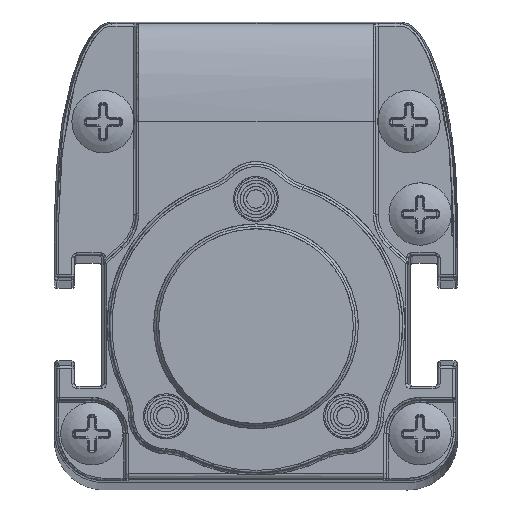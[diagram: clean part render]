
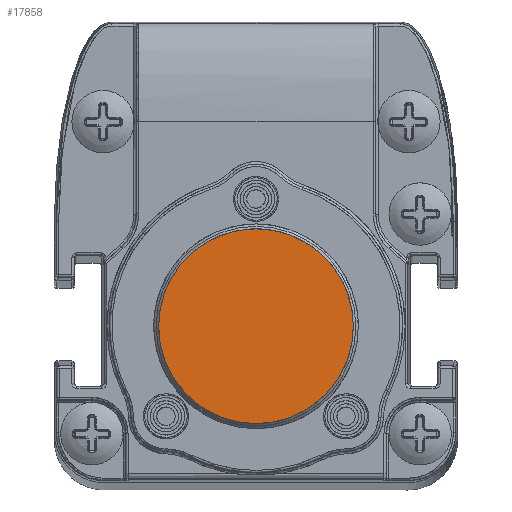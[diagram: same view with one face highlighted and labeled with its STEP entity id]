
A CAD part, top view. The second image highlights one B-rep face of the part: STEP entity #17858.
In plain terms, the highlighted planar face has unit normal (0, 0, 1).
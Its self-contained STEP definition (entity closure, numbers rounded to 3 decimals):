
#15125=B_SPLINE_CURVE_WITH_KNOTS('',3,(#62742,#62743,#62744,#62745,#62746,
#62747,#62748,#62749,#62750,#62751,#62752,#62753,#62754,#62755,#62756,#62757,
#62758,#62759,#62760,#62761,#62762,#62763,#62764,#62765,#62766,#62767,#62768,
#62769,#62770,#62771,#62772,#62773,#62774,#62775,#62776,#62777,#62778,#62779,
#62780,#62781,#62782,#62783,#62784,#62785,#62786,#62787,#62788,#62789,#62790,
#62791,#62792,#62793,#62794,#62795,#62796,#62797,#62798,#62799,#62800,#62801,
#62802,#62803,#62804,#62805,#62806,#62807,#62808,#62809,#62810,#62811,#62812,
#62813,#62814,#62815,#62816,#62817,#62818,#62819,#62820,#62821,#62822,#62823,
#62824,#62825,#62826,#62827,#62828,#62829,#62830,#62831,#62832,#62833,#62834,
#62835,#62836,#62837,#62838,#62839,#62840,#62841,#62842,#62843,#62844),
 .UNSPECIFIED.,.T.,.F.,(1,3,3,3,3,3,3,3,3,3,3,3,3,3,3,3,3,3,3,3,3,3,3,3,
3,3,3,3,3,3,3,3,3,3,3,3,1),(-0.029,0.,0.029,0.059,
0.088,0.118,0.147,0.176,
0.206,0.235,0.265,0.294,
0.324,0.353,0.382,0.412,
0.441,0.471,0.5,0.529,0.559,
0.588,0.618,0.647,0.676,
0.706,0.735,0.765,0.794,
0.824,0.853,0.882,0.912,
0.941,0.971,1.,1.029),.UNSPECIFIED.);
#17858=ADVANCED_FACE('',(#19841),#18756,.T.);
#18756=PLANE('',#43002);
#19841=FACE_OUTER_BOUND('',#21305,.T.);
#21305=EDGE_LOOP('',(#27536));
#27536=ORIENTED_EDGE('',*,*,#36415,.T.);
#31536=VERTEX_POINT('',#62845);
#36415=EDGE_CURVE('',#31536,#31536,#15125,.T.);
#43002=AXIS2_PLACEMENT_3D('',#62846,#46929,#46930);
#46929=DIRECTION('',(0.,0.,1.));
#46930=DIRECTION('',(1.,0.,0.));
#62742=CARTESIAN_POINT('',(7.8,0.,383.24));
#62743=CARTESIAN_POINT('',(7.8,0.465,383.24));
#62744=CARTESIAN_POINT('',(7.759,0.925,383.24));
#62745=CARTESIAN_POINT('',(7.679,1.376,383.24));
#62746=CARTESIAN_POINT('',(7.638,1.601,383.24));
#62747=CARTESIAN_POINT('',(7.588,1.825,383.24));
#62748=CARTESIAN_POINT('',(7.527,2.047,383.24));
#62749=CARTESIAN_POINT('',(7.466,2.269,383.24));
#62750=CARTESIAN_POINT('',(7.407,2.458,383.24));
#62751=CARTESIAN_POINT('',(7.315,2.708,383.24));
#62752=CARTESIAN_POINT('',(7.129,3.209,383.24));
#62753=CARTESIAN_POINT('',(6.898,3.683,383.24));
#62754=CARTESIAN_POINT('',(6.62,4.128,383.24));
#62755=CARTESIAN_POINT('',(6.343,4.573,383.24));
#62756=CARTESIAN_POINT('',(6.043,4.965,383.24));
#62757=CARTESIAN_POINT('',(5.651,5.376,383.24));
#62758=CARTESIAN_POINT('',(4.868,6.2,383.24));
#62759=CARTESIAN_POINT('',(3.912,6.837,383.24));
#62760=CARTESIAN_POINT('',(2.89,7.245,383.24));
#62761=CARTESIAN_POINT('',(2.378,7.449,383.24));
#62762=CARTESIAN_POINT('',(1.856,7.597,383.24));
#62763=CARTESIAN_POINT('',(1.324,7.689,383.24));
#62764=CARTESIAN_POINT('',(1.058,7.734,383.24));
#62765=CARTESIAN_POINT('',(0.79,7.766,383.24));
#62766=CARTESIAN_POINT('',(0.52,7.784,383.24));
#62767=CARTESIAN_POINT('',(0.249,7.801,383.24));
#62768=CARTESIAN_POINT('',(-0.055,7.804,383.24));
#62769=CARTESIAN_POINT('',(-0.3,7.794,383.24));
#62770=CARTESIAN_POINT('',(-0.79,7.775,383.24));
#62771=CARTESIAN_POINT('',(-1.271,7.712,383.24));
#62772=CARTESIAN_POINT('',(-1.742,7.604,383.24));
#62773=CARTESIAN_POINT('',(-2.213,7.496,383.24));
#62774=CARTESIAN_POINT('',(-2.713,7.327,383.24));
#62775=CARTESIAN_POINT('',(-3.123,7.147,383.24));
#62776=CARTESIAN_POINT('',(-3.534,6.968,383.24));
#62777=CARTESIAN_POINT('',(-3.924,6.757,383.24));
#62778=CARTESIAN_POINT('',(-4.293,6.513,383.24));
#62779=CARTESIAN_POINT('',(-4.477,6.392,383.24));
#62780=CARTESIAN_POINT('',(-4.656,6.262,383.24));
#62781=CARTESIAN_POINT('',(-4.83,6.125,383.24));
#62782=CARTESIAN_POINT('',(-5.004,5.987,383.24));
#62783=CARTESIAN_POINT('',(-5.15,5.864,383.24));
#62784=CARTESIAN_POINT('',(-5.337,5.688,383.24));
#62785=CARTESIAN_POINT('',(-5.712,5.337,383.24));
#62786=CARTESIAN_POINT('',(-6.047,4.956,383.24));
#62787=CARTESIAN_POINT('',(-6.341,4.545,383.24));
#62788=CARTESIAN_POINT('',(-6.635,4.134,383.24));
#62789=CARTESIAN_POINT('',(-6.869,3.738,383.24));
#62790=CARTESIAN_POINT('',(-7.102,3.226,383.24));
#62791=CARTESIAN_POINT('',(-7.567,2.203,383.24));
#62792=CARTESIAN_POINT('',(-7.8,1.124,383.24));
#62793=CARTESIAN_POINT('',(-7.8,0.,383.24));
#62794=CARTESIAN_POINT('',(-7.8,-0.562,383.24));
#62795=CARTESIAN_POINT('',(-7.742,-1.113,383.24));
#62796=CARTESIAN_POINT('',(-7.625,-1.651,383.24));
#62797=CARTESIAN_POINT('',(-7.509,-2.189,383.24));
#62798=CARTESIAN_POINT('',(-7.314,-2.758,383.24));
#62799=CARTESIAN_POINT('',(-7.102,-3.226,383.24));
#62800=CARTESIAN_POINT('',(-6.889,-3.694,383.24));
#62801=CARTESIAN_POINT('',(-6.636,-4.134,383.24));
#62802=CARTESIAN_POINT('',(-6.341,-4.544,383.24));
#62803=CARTESIAN_POINT('',(-6.194,-4.75,383.24));
#62804=CARTESIAN_POINT('',(-6.037,-4.947,383.24));
#62805=CARTESIAN_POINT('',(-5.87,-5.138,383.24));
#62806=CARTESIAN_POINT('',(-5.702,-5.329,383.24));
#62807=CARTESIAN_POINT('',(-5.5,-5.535,383.24));
#62808=CARTESIAN_POINT('',(-5.337,-5.688,383.24));
#62809=CARTESIAN_POINT('',(-5.01,-5.995,383.24));
#62810=CARTESIAN_POINT('',(-4.662,-6.27,383.24));
#62811=CARTESIAN_POINT('',(-4.293,-6.513,383.24));
#62812=CARTESIAN_POINT('',(-3.924,-6.756,383.24));
#62813=CARTESIAN_POINT('',(-3.573,-6.951,383.24));
#62814=CARTESIAN_POINT('',(-3.123,-7.147,383.24));
#62815=CARTESIAN_POINT('',(-2.674,-7.344,383.24));
#62816=CARTESIAN_POINT('',(-2.213,-7.496,383.24));
#62817=CARTESIAN_POINT('',(-1.743,-7.604,383.24));
#62818=CARTESIAN_POINT('',(-1.507,-7.658,383.24));
#62819=CARTESIAN_POINT('',(-1.269,-7.701,383.24));
#62820=CARTESIAN_POINT('',(-1.029,-7.732,383.24));
#62821=CARTESIAN_POINT('',(-0.789,-7.764,383.24));
#62822=CARTESIAN_POINT('',(-0.575,-7.784,383.24));
#62823=CARTESIAN_POINT('',(-0.3,-7.794,383.24));
#62824=CARTESIAN_POINT('',(0.801,-7.837,383.24));
#62825=CARTESIAN_POINT('',(1.834,-7.666,383.24));
#62826=CARTESIAN_POINT('',(2.89,-7.245,383.24));
#62827=CARTESIAN_POINT('',(3.417,-7.035,383.24));
#62828=CARTESIAN_POINT('',(3.912,-6.774,383.24));
#62829=CARTESIAN_POINT('',(4.372,-6.462,383.24));
#62830=CARTESIAN_POINT('',(4.833,-6.15,383.24));
#62831=CARTESIAN_POINT('',(5.283,-5.763,383.24));
#62832=CARTESIAN_POINT('',(5.651,-5.376,383.24));
#62833=CARTESIAN_POINT('',(6.019,-4.989,383.24));
#62834=CARTESIAN_POINT('',(6.342,-4.573,383.24));
#62835=CARTESIAN_POINT('',(6.62,-4.128,383.24));
#62836=CARTESIAN_POINT('',(6.759,-3.906,383.24));
#62837=CARTESIAN_POINT('',(6.886,-3.676,383.24));
#62838=CARTESIAN_POINT('',(7.002,-3.44,383.24));
#62839=CARTESIAN_POINT('',(7.117,-3.203,383.24));
#62840=CARTESIAN_POINT('',(7.234,-2.926,383.24));
#62841=CARTESIAN_POINT('',(7.315,-2.708,383.24));
#62842=CARTESIAN_POINT('',(7.638,-1.835,383.24));
#62843=CARTESIAN_POINT('',(7.8,-0.933,383.24));
#62844=CARTESIAN_POINT('',(7.8,0.,383.24));
#62845=CARTESIAN_POINT('',(7.8,0.,383.24));
#62846=CARTESIAN_POINT('',(-8.9,-8.81,383.24));
